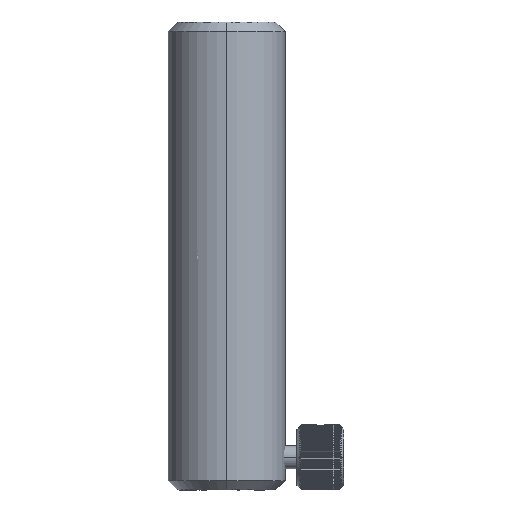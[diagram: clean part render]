
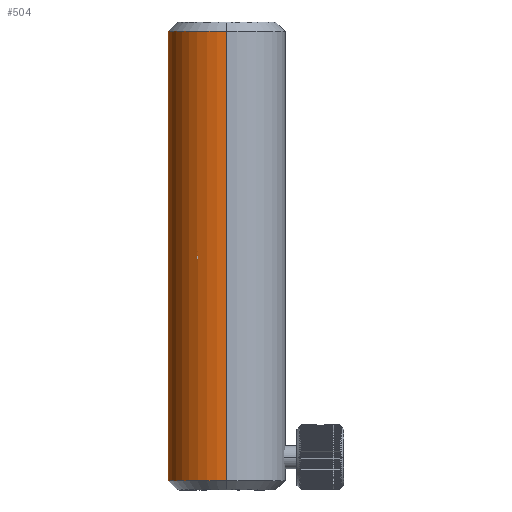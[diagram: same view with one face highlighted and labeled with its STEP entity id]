
A CAD part, left-side view. The second image highlights one B-rep face of the part: STEP entity #504.
In plain terms, the highlighted cylindrical face has radius 12.5 mm (diameter 25 mm), a partial arc.
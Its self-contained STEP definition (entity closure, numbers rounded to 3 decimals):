
#216 = CARTESIAN_POINT ( 'NONE',  ( -4.969, -0.684, 148. ) ) ;
#230 = EDGE_LOOP ( 'NONE', ( #13685, #18496, #17558, #9965 ) ) ;
#504 = ADVANCED_FACE ( 'NONE', ( #20262 ), #18780, .T. ) ;
#1740 = VERTEX_POINT ( 'NONE', #6155 ) ;
#3082 = VERTEX_POINT ( 'NONE', #3879 ) ;
#3176 = AXIS2_PLACEMENT_3D ( 'NONE', #216, #7722, #16919 ) ;
#3879 = CARTESIAN_POINT ( 'NONE',  ( -17.469, -0.684, 52. ) ) ;
#5476 = CARTESIAN_POINT ( 'NONE',  ( -4.969, 11.816, 52. ) ) ;
#6155 = CARTESIAN_POINT ( 'NONE',  ( -4.969, 11.816, 148. ) ) ;
#6260 = CIRCLE ( 'NONE', #16211, 12.5 ) ;
#7443 = CARTESIAN_POINT ( 'NONE',  ( -4.969, -0.684, 52. ) ) ;
#7722 = DIRECTION ( 'NONE',  ( 0., 0., -1. ) ) ;
#8423 = DIRECTION ( 'NONE',  ( 0., 0., 1. ) ) ;
#8903 = VERTEX_POINT ( 'NONE', #16737 ) ;
#9965 = ORIENTED_EDGE ( 'NONE', *, *, #20309, .F. ) ;
#10067 = EDGE_CURVE ( 'NONE', #3082, #12582, #6260, .T. ) ;
#10358 = CARTESIAN_POINT ( 'NONE',  ( -4.969, 11.816, 148. ) ) ;
#11123 = LINE ( 'NONE', #10358, #14041 ) ;
#11484 = DIRECTION ( 'NONE',  ( -1., 0., 0. ) ) ;
#11544 = AXIS2_PLACEMENT_3D ( 'NONE', #14341, #8423, #21647 ) ;
#12175 = DIRECTION ( 'NONE',  ( 0., 0., -1. ) ) ;
#12504 = CIRCLE ( 'NONE', #11544, 12.5 ) ;
#12582 = VERTEX_POINT ( 'NONE', #5476 ) ;
#13685 = ORIENTED_EDGE ( 'NONE', *, *, #15253, .F. ) ;
#14041 = VECTOR ( 'NONE', #12175, 1000. ) ;
#14341 = CARTESIAN_POINT ( 'NONE',  ( -4.969, -0.684, 148. ) ) ;
#15253 = EDGE_CURVE ( 'NONE', #1740, #8903, #12504, .T. ) ;
#16211 = AXIS2_PLACEMENT_3D ( 'NONE', #7443, #18840, #11484 ) ;
#16324 = LINE ( 'NONE', #19747, #20716 ) ;
#16737 = CARTESIAN_POINT ( 'NONE',  ( -17.469, -0.684, 148. ) ) ;
#16919 = DIRECTION ( 'NONE',  ( 0., 1., 0. ) ) ;
#17558 = ORIENTED_EDGE ( 'NONE', *, *, #10067, .F. ) ;
#17698 = EDGE_CURVE ( 'NONE', #1740, #12582, #11123, .T. ) ;
#18496 = ORIENTED_EDGE ( 'NONE', *, *, #17698, .T. ) ;
#18780 = CYLINDRICAL_SURFACE ( 'NONE', #3176, 12.5 ) ;
#18840 = DIRECTION ( 'NONE',  ( 0., 0., -1. ) ) ;
#19747 = CARTESIAN_POINT ( 'NONE',  ( -17.469, -0.684, 100. ) ) ;
#20262 = FACE_OUTER_BOUND ( 'NONE', #230, .T. ) ;
#20309 = EDGE_CURVE ( 'NONE', #8903, #3082, #16324, .T. ) ;
#20716 = VECTOR ( 'NONE', #21627, 1000. ) ;
#21627 = DIRECTION ( 'NONE',  ( 0., 0., -1. ) ) ;
#21647 = DIRECTION ( 'NONE',  ( -1., 0., 0. ) ) ;
